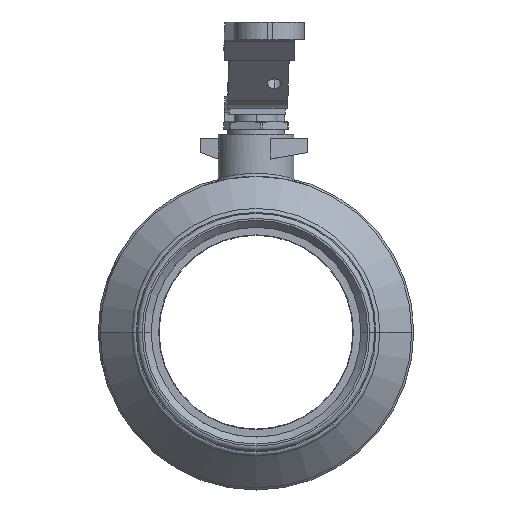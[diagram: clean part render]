
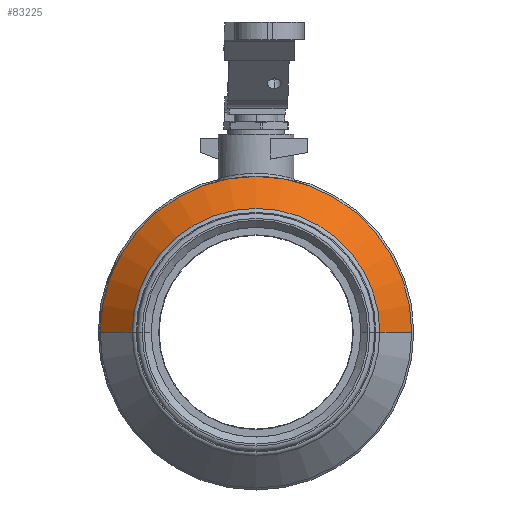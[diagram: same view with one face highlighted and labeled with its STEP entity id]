
A CAD part, left-side view. The second image highlights one B-rep face of the part: STEP entity #83225.
In plain terms, the highlighted conical face has half-angle 44.641 degrees and reference radius 62 mm.
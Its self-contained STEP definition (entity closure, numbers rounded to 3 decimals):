
#61500 = CYLINDRICAL_SURFACE('',#61501,78.);
#61501 = AXIS2_PLACEMENT_3D('',#61502,#61503,#61504);
#61502 = CARTESIAN_POINT('',(-121.,0.,
    0.));
#61503 = DIRECTION('',(-1.,0.,0.));
#61504 = DIRECTION('',(-0.,-1.,0.));
#73416 = VERTEX_POINT('',#73417);
#73417 = CARTESIAN_POINT('',(-38.,78.,
    0.));
#73438 = EDGE_CURVE('',#73439,#73416,#73441,.T.);
#73439 = VERTEX_POINT('',#73440);
#73440 = CARTESIAN_POINT('',(-38.,-78.,0.));
#73441 = SURFACE_CURVE('',#73442,(#73447,#73454),.PCURVE_S1.);
#73442 = CIRCLE('',#73443,78.);
#73443 = AXIS2_PLACEMENT_3D('',#73444,#73445,#73446);
#73444 = CARTESIAN_POINT('',(-38.,0.,
    0.));
#73445 = DIRECTION('',(-1.,0.,0.));
#73446 = DIRECTION('',(-0.,-1.,0.));
#73447 = PCURVE('',#61500,#73448);
#73448 = DEFINITIONAL_REPRESENTATION('',(#73449),#73453);
#73449 = LINE('',#73450,#73451);
#73450 = CARTESIAN_POINT('',(0.,-83.));
#73451 = VECTOR('',#73452,1.);
#73452 = DIRECTION('',(1.,0.));
#73453 = ( GEOMETRIC_REPRESENTATION_CONTEXT(2) 
PARAMETRIC_REPRESENTATION_CONTEXT() REPRESENTATION_CONTEXT('2D SPACE',''
  ) );
#73454 = PCURVE('',#73455,#73460);
#73455 = CONICAL_SURFACE('',#73456,62.,0.779);
#73456 = AXIS2_PLACEMENT_3D('',#73457,#73458,#73459);
#73457 = CARTESIAN_POINT('',(-54.202,0.,
    0.));
#73458 = DIRECTION('',(1.,0.,0.));
#73459 = DIRECTION('',(-0.,1.,0.));
#73460 = DEFINITIONAL_REPRESENTATION('',(#73461),#73465);
#73461 = LINE('',#73462,#73463);
#73462 = CARTESIAN_POINT('',(3.142,16.202));
#73463 = VECTOR('',#73464,1.);
#73464 = DIRECTION('',(-1.,0.));
#73465 = ( GEOMETRIC_REPRESENTATION_CONTEXT(2) 
PARAMETRIC_REPRESENTATION_CONTEXT() REPRESENTATION_CONTEXT('2D SPACE',''
  ) );
#73530 = CONICAL_SURFACE('',#73531,62.,0.779);
#73531 = AXIS2_PLACEMENT_3D('',#73532,#73533,#73534);
#73532 = CARTESIAN_POINT('',(-54.202,0.,
    0.));
#73533 = DIRECTION('',(1.,0.,0.));
#73534 = DIRECTION('',(-0.,1.,0.));
#83225 = ADVANCED_FACE('',(#83226),#73455,.T.);
#83226 = FACE_BOUND('',#83227,.T.);
#83227 = EDGE_LOOP('',(#83228,#83259,#83280,#83281));
#83228 = ORIENTED_EDGE('',*,*,#83229,.F.);
#83229 = EDGE_CURVE('',#83230,#83232,#83234,.T.);
#83230 = VERTEX_POINT('',#83231);
#83231 = CARTESIAN_POINT('',(-54.202,-62.,
    0.));
#83232 = VERTEX_POINT('',#83233);
#83233 = CARTESIAN_POINT('',(-54.202,62.,
    0.));
#83234 = SURFACE_CURVE('',#83235,(#83240,#83247),.PCURVE_S1.);
#83235 = CIRCLE('',#83236,62.);
#83236 = AXIS2_PLACEMENT_3D('',#83237,#83238,#83239);
#83237 = CARTESIAN_POINT('',(-54.202,0.,
    0.));
#83238 = DIRECTION('',(-1.,0.,0.));
#83239 = DIRECTION('',(-0.,-1.,0.));
#83240 = PCURVE('',#73455,#83241);
#83241 = DEFINITIONAL_REPRESENTATION('',(#83242),#83246);
#83242 = LINE('',#83243,#83244);
#83243 = CARTESIAN_POINT('',(3.142,0.));
#83244 = VECTOR('',#83245,1.);
#83245 = DIRECTION('',(-1.,0.));
#83246 = ( GEOMETRIC_REPRESENTATION_CONTEXT(2) 
PARAMETRIC_REPRESENTATION_CONTEXT() REPRESENTATION_CONTEXT('2D SPACE',''
  ) );
#83247 = PCURVE('',#83248,#83253);
#83248 = CYLINDRICAL_SURFACE('',#83249,62.);
#83249 = AXIS2_PLACEMENT_3D('',#83250,#83251,#83252);
#83250 = CARTESIAN_POINT('',(-121.,0.,
    0.));
#83251 = DIRECTION('',(-1.,0.,0.));
#83252 = DIRECTION('',(-0.,-1.,0.));
#83253 = DEFINITIONAL_REPRESENTATION('',(#83254),#83258);
#83254 = LINE('',#83255,#83256);
#83255 = CARTESIAN_POINT('',(0.,-66.798));
#83256 = VECTOR('',#83257,1.);
#83257 = DIRECTION('',(1.,0.));
#83258 = ( GEOMETRIC_REPRESENTATION_CONTEXT(2) 
PARAMETRIC_REPRESENTATION_CONTEXT() REPRESENTATION_CONTEXT('2D SPACE',''
  ) );
#83259 = ORIENTED_EDGE('',*,*,#83260,.T.);
#83260 = EDGE_CURVE('',#83230,#73439,#83261,.T.);
#83261 = SURFACE_CURVE('',#83262,(#83266,#83273),.PCURVE_S1.);
#83262 = LINE('',#83263,#83264);
#83263 = CARTESIAN_POINT('',(-54.202,-62.,
    0.));
#83264 = VECTOR('',#83265,1.);
#83265 = DIRECTION('',(0.712,-0.703,
    0.));
#83266 = PCURVE('',#73455,#83267);
#83267 = DEFINITIONAL_REPRESENTATION('',(#83268),#83272);
#83268 = LINE('',#83269,#83270);
#83269 = CARTESIAN_POINT('',(3.142,0.));
#83270 = VECTOR('',#83271,1.);
#83271 = DIRECTION('',(0.,1.));
#83272 = ( GEOMETRIC_REPRESENTATION_CONTEXT(2) 
PARAMETRIC_REPRESENTATION_CONTEXT() REPRESENTATION_CONTEXT('2D SPACE',''
  ) );
#83273 = PCURVE('',#73530,#83274);
#83274 = DEFINITIONAL_REPRESENTATION('',(#83275),#83279);
#83275 = LINE('',#83276,#83277);
#83276 = CARTESIAN_POINT('',(3.142,0.));
#83277 = VECTOR('',#83278,1.);
#83278 = DIRECTION('',(0.,1.));
#83279 = ( GEOMETRIC_REPRESENTATION_CONTEXT(2) 
PARAMETRIC_REPRESENTATION_CONTEXT() REPRESENTATION_CONTEXT('2D SPACE',''
  ) );
#83280 = ORIENTED_EDGE('',*,*,#73438,.T.);
#83281 = ORIENTED_EDGE('',*,*,#83282,.F.);
#83282 = EDGE_CURVE('',#83232,#73416,#83283,.T.);
#83283 = SURFACE_CURVE('',#83284,(#83288,#83295),.PCURVE_S1.);
#83284 = LINE('',#83285,#83286);
#83285 = CARTESIAN_POINT('',(-54.202,62.,
    0.));
#83286 = VECTOR('',#83287,1.);
#83287 = DIRECTION('',(0.712,0.703,0.)
  );
#83288 = PCURVE('',#73455,#83289);
#83289 = DEFINITIONAL_REPRESENTATION('',(#83290),#83294);
#83290 = LINE('',#83291,#83292);
#83291 = CARTESIAN_POINT('',(0.,0.));
#83292 = VECTOR('',#83293,1.);
#83293 = DIRECTION('',(0.,1.));
#83294 = ( GEOMETRIC_REPRESENTATION_CONTEXT(2) 
PARAMETRIC_REPRESENTATION_CONTEXT() REPRESENTATION_CONTEXT('2D SPACE',''
  ) );
#83295 = PCURVE('',#73530,#83296);
#83296 = DEFINITIONAL_REPRESENTATION('',(#83297),#83301);
#83297 = LINE('',#83298,#83299);
#83298 = CARTESIAN_POINT('',(6.283,0.));
#83299 = VECTOR('',#83300,1.);
#83300 = DIRECTION('',(0.,1.));
#83301 = ( GEOMETRIC_REPRESENTATION_CONTEXT(2) 
PARAMETRIC_REPRESENTATION_CONTEXT() REPRESENTATION_CONTEXT('2D SPACE',''
  ) );
